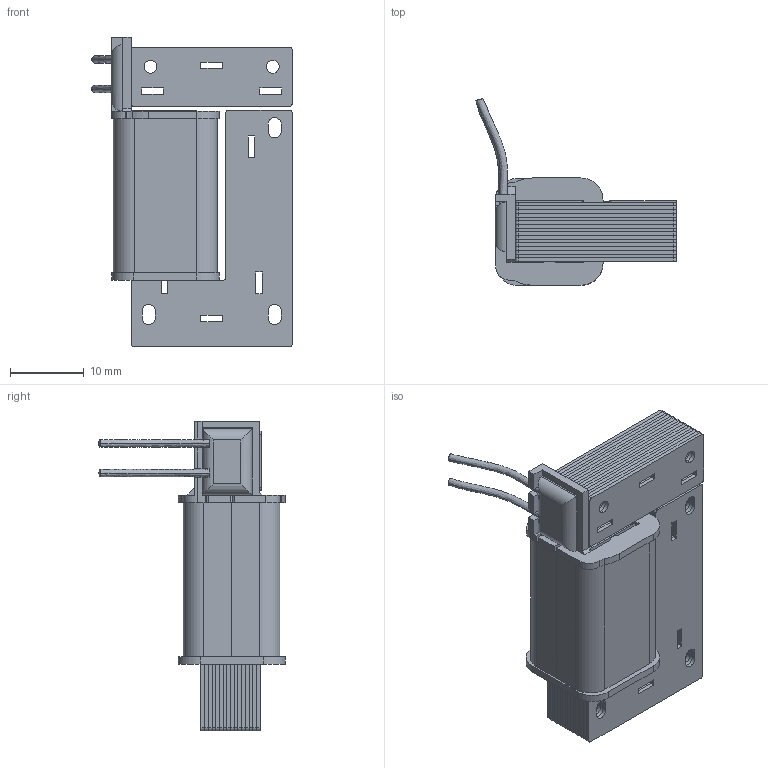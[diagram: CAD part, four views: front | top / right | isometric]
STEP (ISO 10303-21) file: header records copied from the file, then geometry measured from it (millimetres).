
FILE_DESCRIPTION (( 'STEP AP214' ), '1' );
FILE_NAME ('IHPT1710 R2.STEP', '2023-09-11T10:34:13', ( '' ), ( '' ), 'SwSTEP 2.0', 'SolidWorks 2022', '' );
FILE_SCHEMA (( 'AUTOMOTIVE_DESIGN' ));
Length unit declared in the file: millimetre
Products named in the file (7): 132667 R5; 132668 R3; IHPT1710 R2; 132669 R3_Side Leads; windings
Assembly tree (36 placements, depth 3):
  IHPT1710 R2
    132669 R3_Side Leads
    132668 R3
      132668 R3  x16
    132667 R5
      132667 R5  x16
    windings
Bounding box: 27.12 x 25.23 x 41.85 mm (x, y, z)
Volume: 8535.6 mm3; surface area: 30947.5 mm2
Topology: 34 solids, 34 shells, 1351 faces, 3807 edges, 2525 vertices
Faces by surface type: plane 952, cylinder 393, bspline 6
Entity records: 8205 total; most frequent: CARTESIAN_POINT 1522, DIRECTION 1170, ORIENTED_EDGE 1134, EDGE_CURVE 567, VECTOR 416, LINE 416, AXIS2_PLACEMENT_3D 377, VERTEX_POINT 365
